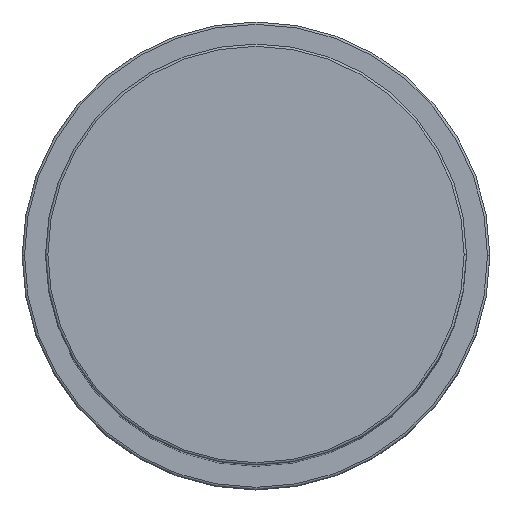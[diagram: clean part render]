
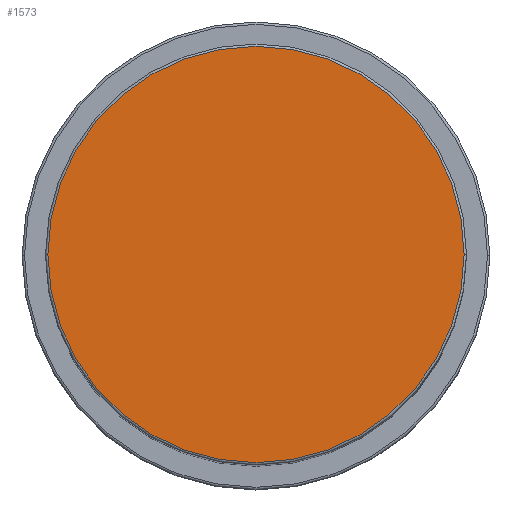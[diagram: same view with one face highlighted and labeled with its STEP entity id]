
A CAD part, top view. The second image highlights one B-rep face of the part: STEP entity #1573.
In plain terms, the highlighted planar face has unit normal (0, 0, 1).
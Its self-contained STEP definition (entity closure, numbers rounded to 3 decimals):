
#150 = CARTESIAN_POINT ( 'NONE',  ( 44.5, 0., 184. ) ) ;
#197 = EDGE_LOOP ( 'NONE', ( #1904, #2019 ) ) ;
#272 = CARTESIAN_POINT ( 'NONE',  ( 0., 0., 184. ) ) ;
#452 = FACE_OUTER_BOUND ( 'NONE', #197, .T. ) ;
#478 = EDGE_CURVE ( 'NONE', #1544, #675, #1560, .T. ) ;
#587 = DIRECTION ( 'NONE',  ( 0., 0., 1. ) ) ;
#675 = VERTEX_POINT ( 'NONE', #150 ) ;
#779 = CARTESIAN_POINT ( 'NONE',  ( 0., 0., 184. ) ) ;
#1167 = AXIS2_PLACEMENT_3D ( 'NONE', #779, #1581, #1741 ) ;
#1241 = AXIS2_PLACEMENT_3D ( 'NONE', #272, #587, #2038 ) ;
#1362 = EDGE_CURVE ( 'NONE', #675, #1544, #1886, .T. ) ;
#1468 = CARTESIAN_POINT ( 'NONE',  ( 0., 0., 184. ) ) ;
#1524 = CARTESIAN_POINT ( 'NONE',  ( -44.5, 0., 184. ) ) ;
#1544 = VERTEX_POINT ( 'NONE', #1524 ) ;
#1558 = PLANE ( 'NONE',  #1167 ) ;
#1560 = CIRCLE ( 'NONE', #1241, 44.5 ) ;
#1573 = ADVANCED_FACE ( 'NONE', ( #452 ), #1558, .T. ) ;
#1581 = DIRECTION ( 'NONE',  ( 0., 0., 1. ) ) ;
#1741 = DIRECTION ( 'NONE',  ( 1., 0., 0. ) ) ;
#1834 = DIRECTION ( 'NONE',  ( 0., 0., 1. ) ) ;
#1886 = CIRCLE ( 'NONE', #2003, 44.5 ) ;
#1904 = ORIENTED_EDGE ( 'NONE', *, *, #1362, .T. ) ;
#1970 = DIRECTION ( 'NONE',  ( 1., 0., 0. ) ) ;
#2003 = AXIS2_PLACEMENT_3D ( 'NONE', #1468, #1834, #1970 ) ;
#2019 = ORIENTED_EDGE ( 'NONE', *, *, #478, .T. ) ;
#2038 = DIRECTION ( 'NONE',  ( 1., 0., 0. ) ) ;
